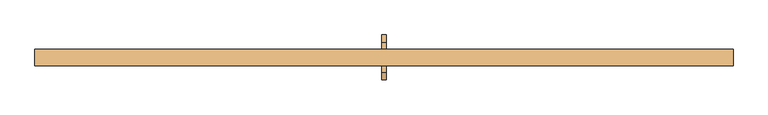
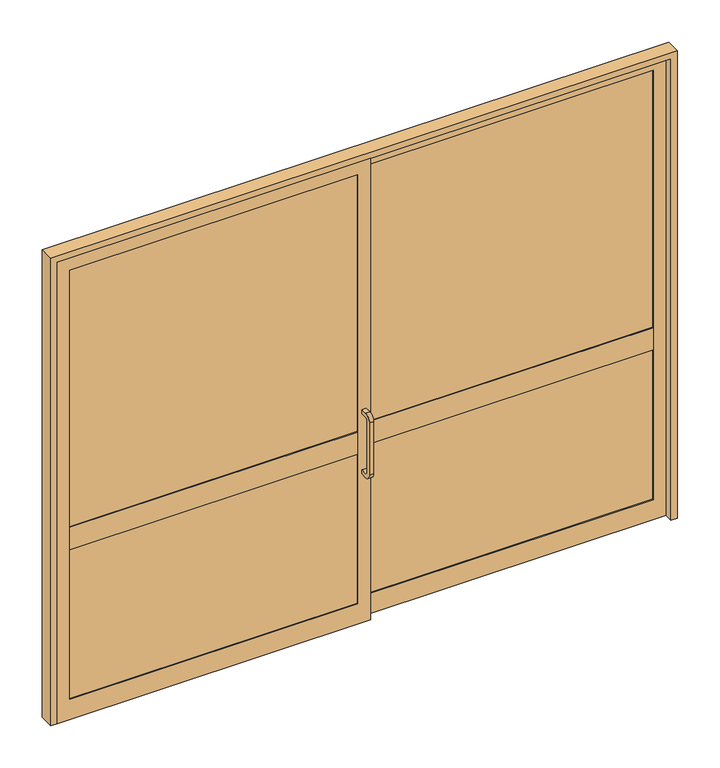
"""IFC4 building model written with IfcOpenShell, lengths in millimetres: door geometry, 门嵌板_70-90 系列双扇推拉铝门 : 70系列有横档."""

from ifc_helpers import new_model, si_unit, point, frame, frame_2d, origin, place, context, project, spatial, polyline, circle_curve, trimmed, segment, composite_curve, outline, extrude, source, transform, mapped, element, save


def door_769b4ac8(model_context):
    return source(origin(), model_context, "Body", "SweptSolid", [
        extrude(outline(composite_curve([segment(polyline([(35.0, 740.0), (35.0, 760.0), (65.0, 760.0)]), True, "CONTINUOUS"), segment(trimmed(circle_curve(frame_2d((65.0, 770.0)), 10.0), [point((65.0, 760.0))], [point((75.0, 770.0))], True, "CARTESIAN"), True, "CONTINUOUS"), segment(polyline([(75.0, 770.0), (75.0, 1030.0)]), True, "CONTINUOUS"), segment(trimmed(circle_curve(frame_2d((65.0, 1030.0)), 10.0), [point((75.0, 1030.0))], [point((65.0, 1040.0))], True, "CARTESIAN"), True, "CONTINUOUS"), segment(polyline([(65.0, 1040.0), (35.0, 1040.0), (35.0, 1060.0), (65.0, 1060.0)]), True, "CONTINUOUS"), segment(trimmed(circle_curve(frame_2d((65.0, 1030.0)), 30.0), [point((65.0, 1060.0))], [point((95.0, 1030.0))], False, "CARTESIAN"), True, "CONTINUOUS"), segment(polyline([(95.0, 1030.0), (95.0, 770.0)]), True, "CONTINUOUS"), segment(trimmed(circle_curve(frame_2d((65.0, 770.0)), 30.0), [point((95.0, 770.0))], [point((65.0, 740.0))], False, "CARTESIAN"), True, "CONTINUOUS"), segment(polyline([(65.0, 740.0), (35.0, 740.0)]), True, "CONTINUOUS")], self_intersect=False)), frame((-10.0, 0.0, 0.0), z_axis=(1.0, 0.0, 0.0), x_axis=(0.0, 1.0, 0.0)), (0.0, 0.0, 1.0), 20.0),
        extrude(outline(composite_curve([segment(polyline([(-35.0, 760.0), (-35.0, 740.0), (-65.0, 740.0)]), True, "CONTINUOUS"), segment(trimmed(circle_curve(frame_2d((-65.0, 770.0)), 30.0), [point((-65.0, 740.0))], [point((-95.0, 770.0))], False, "CARTESIAN"), True, "CONTINUOUS"), segment(polyline([(-95.0, 770.0), (-95.0, 1030.0)]), True, "CONTINUOUS"), segment(trimmed(circle_curve(frame_2d((-65.0, 1030.0)), 30.0), [point((-95.0, 1030.0))], [point((-65.0, 1060.0))], False, "CARTESIAN"), True, "CONTINUOUS"), segment(polyline([(-65.0, 1060.0), (-35.0, 1060.0), (-35.0, 1040.0), (-65.0, 1040.0)]), True, "CONTINUOUS"), segment(trimmed(circle_curve(frame_2d((-65.0, 1030.0)), 10.0), [point((-65.0, 1040.0))], [point((-75.0, 1030.0))], True, "CARTESIAN"), True, "CONTINUOUS"), segment(polyline([(-75.0, 1030.0), (-75.0, 770.0)]), True, "CONTINUOUS"), segment(trimmed(circle_curve(frame_2d((-65.0, 770.0)), 10.0), [point((-75.0, 770.0))], [point((-65.0, 760.0))], True, "CARTESIAN"), True, "CONTINUOUS"), segment(polyline([(-65.0, 760.0), (-35.0, 760.0)]), True, "CONTINUOUS")], self_intersect=False)), frame((-10.0, 0.0, 0.0), z_axis=(1.0, 0.0, 0.0), x_axis=(0.0, 1.0, 0.0)), (0.0, 0.0, 1.0), 20.0),
        extrude(outline(polyline([(0.0, 1445.0), (2295.0, 1445.0), (2295.0, -30.0), (0.0, -30.0), (0.0, 1445.0)]), holes=[polyline([(2235.0, 30.0), (2235.0, 1385.0), (100.0, 1385.0), (100.0, 30.0), (2235.0, 30.0)])]), frame((0.0, 5.0, 0.0), z_axis=(0.0, 1.0, 0.0), x_axis=(0.0, 0.0, 1.0)), (0.0, 0.0, 1.0), 30.0),
        extrude(outline(polyline([(0.0, -1445.0), (0.0, 30.0), (2295.0, 30.0), (2295.0, -1445.0), (0.0, -1445.0)]), holes=[polyline([(100.0, -1385.0), (2235.0, -1385.0), (2235.0, -30.0), (100.0, -30.0), (100.0, -1385.0)])]), frame((0.0, -35.0, 0.0), z_axis=(0.0, 1.0, 0.0), x_axis=(0.0, 0.0, 1.0)), (0.0, 0.0, 1.0), 30.0),
        extrude(outline(polyline([(1385.0, 30.0), (1385.0, 10.0), (30.0, 10.0), (30.0, 30.0), (1385.0, 30.0)])), frame((0.0, 0.0, 955.0), z_axis=(0.0, 0.0, 1.0), x_axis=(1.0, 0.0, 0.0)), (0.0, 0.0, 1.0), 1280.0),
        extrude(outline(polyline([(1385.0, 30.0), (1385.0, 10.0), (30.0, 10.0), (30.0, 30.0), (1385.0, 30.0)])), frame((0.0, 0.0, 100.0), z_axis=(0.0, 0.0, 1.0), x_axis=(1.0, 0.0, 0.0)), (0.0, 0.0, 1.0), 745.0),
        extrude(outline(polyline([(-30.0, -10.0), (-30.0, -30.0), (-1385.0, -30.0), (-1385.0, -10.0), (-30.0, -10.0)])), frame((0.0, 0.0, 955.0), z_axis=(0.0, 0.0, 1.0), x_axis=(1.0, 0.0, 0.0)), (0.0, 0.0, 1.0), 1280.0),
        extrude(outline(polyline([(-30.0, -10.0), (-30.0, -30.0), (-1385.0, -30.0), (-1385.0, -10.0), (-30.0, -10.0)])), frame((0.0, 0.0, 100.0), z_axis=(0.0, 0.0, 1.0), x_axis=(1.0, 0.0, 0.0)), (0.0, 0.0, 1.0), 745.0),
        extrude(outline(polyline([(-30.0, -35.0), (-1385.0, -35.0), (-1385.0, -5.0), (-30.0, -5.0), (-30.0, -35.0)])), frame((0.0, 0.0, 845.0), z_axis=(0.0, 0.0, 1.0), x_axis=(1.0, 0.0, 0.0)), (0.0, 0.0, 1.0), 110.0),
        extrude(outline(polyline([(1385.0, 5.0), (30.0, 5.0), (30.0, 35.0), (1385.0, 35.0), (1385.0, 5.0)])), frame((0.0, 0.0, 845.0), z_axis=(0.0, 0.0, 1.0), x_axis=(1.0, 0.0, 0.0)), (0.0, 0.0, 1.0), 110.0),
        extrude(outline(polyline([(0.0, 1475.0), (2325.0, 1475.0), (2325.0, -1475.0), (0.0, -1475.0), (0.0, -1445.0), (2295.0, -1445.0), (2295.0, 1445.0), (0.0, 1445.0), (0.0, 1475.0)])), frame((0.0, -35.0, 0.0), z_axis=(0.0, 1.0, 0.0), x_axis=(0.0, 0.0, 1.0)), (0.0, 0.0, 1.0), 70.0),
    ])


if __name__ == "__main__":
    model = new_model("IFC4")
    model_context = context("Model", 3, world=origin())
    ifc_project = project(units=[si_unit("LENGTHUNIT", "METRE", prefix="MILLI")], contexts=[model_context])
    site = spatial("IfcSite", under=ifc_project)
    building = spatial("IfcBuilding", under=site)
    placement = place(None, origin())
    door_shape = door_769b4ac8(model_context)
    element("IfcDoor", 1, ObjectType="门嵌板_70-90 系列双扇推拉铝门 : 70系列有横档", at=placement, inside=building, context=model_context, shape_type="MappedRepresentation", body=[
        mapped(door_shape, transform((0.0, 0.0, 0.0), x_axis=(1.0, 0.0, 0.0), y_axis=(0.0, 1.0, 0.0), z_axis=(0.0, 0.0, 1.0))),
    ])
    save(model, "model.ifc")
